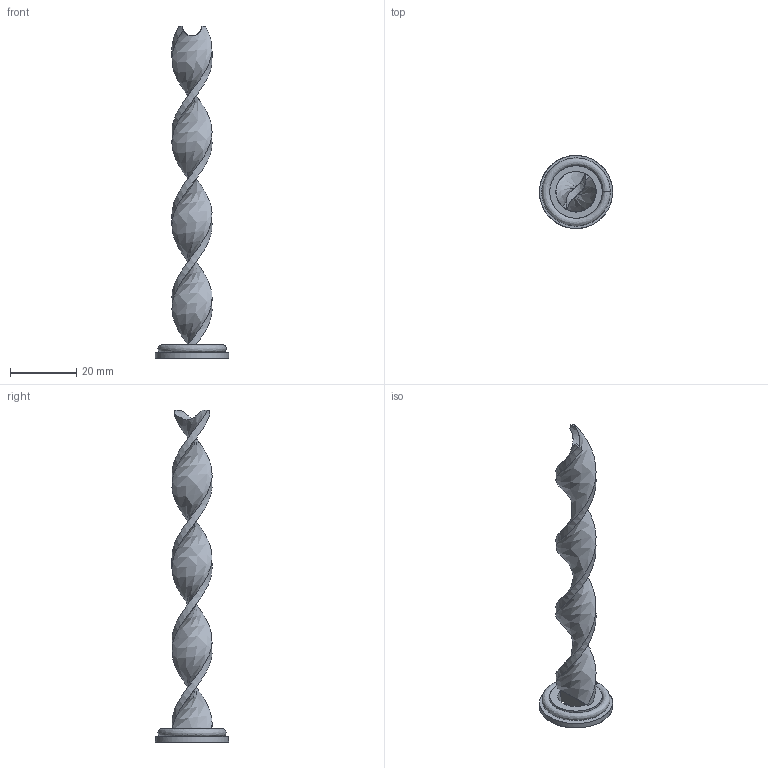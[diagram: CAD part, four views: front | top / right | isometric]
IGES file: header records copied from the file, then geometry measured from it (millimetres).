
Global section: file name: E:\UnigraphicsGraphicData\MISUMI_MOLD-PARTS\NX\3d_wrcan12-100_00623_r00.igs; native system: NX V5.0; preprocessor: UGS NX IGES V5.0; author: MISUMI; date: 20101115.183629; units: millimetre
Bounding box: 22 x 22 x 100 mm (x, y, z)
Surface area: 4404.5 mm2 (no closed solid volume)
Topology: 0 solids, 0 shells, 21 faces, 144 edges, 137 vertices
Faces by surface type: bspline 21
